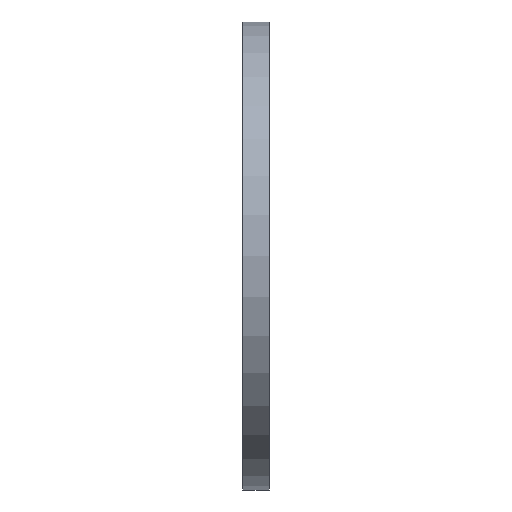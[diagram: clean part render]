
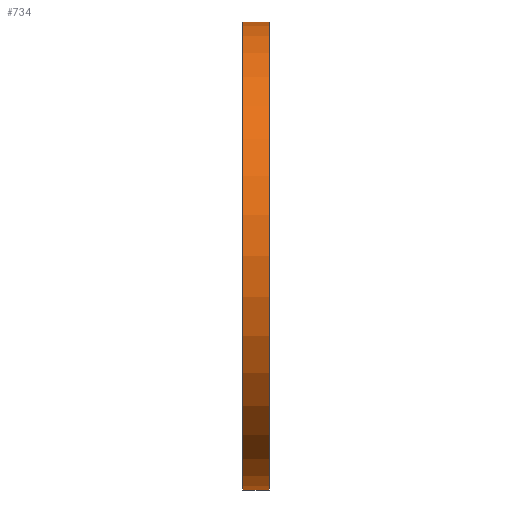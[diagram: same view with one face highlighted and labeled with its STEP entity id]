
A CAD part, left-side view. The second image highlights one B-rep face of the part: STEP entity #734.
In plain terms, the highlighted cylindrical face has radius 142.5 mm (diameter 285 mm), a partial arc.
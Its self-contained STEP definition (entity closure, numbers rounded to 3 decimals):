
#3 = LINE ( 'NONE', #870, #1173 ) ;
#72 = VERTEX_POINT ( 'NONE', #470 ) ;
#88 = DIRECTION ( 'NONE',  ( 0., -1., 0. ) ) ;
#111 = CIRCLE ( 'NONE', #1003, 142.5 ) ;
#135 = ORIENTED_EDGE ( 'NONE', *, *, #1010, .F. ) ;
#238 = AXIS2_PLACEMENT_3D ( 'NONE', #414, #806, #526 ) ;
#239 = CARTESIAN_POINT ( 'NONE',  ( 0., 0., 142.5 ) ) ;
#257 = DIRECTION ( 'NONE',  ( 0., 0., -1. ) ) ;
#350 = AXIS2_PLACEMENT_3D ( 'NONE', #739, #88, #257 ) ;
#387 = EDGE_LOOP ( 'NONE', ( #593, #407, #814, #135 ) ) ;
#407 = ORIENTED_EDGE ( 'NONE', *, *, #823, .T. ) ;
#411 = EDGE_CURVE ( 'NONE', #72, #712, #707, .T. ) ;
#414 = CARTESIAN_POINT ( 'NONE',  ( 0., 0., 0. ) ) ;
#416 = CARTESIAN_POINT ( 'NONE',  ( 0., 0., -142.5 ) ) ;
#443 = CARTESIAN_POINT ( 'NONE',  ( 0., 0., 0. ) ) ;
#448 = DIRECTION ( 'NONE',  ( 0., -1., 0. ) ) ;
#470 = CARTESIAN_POINT ( 'NONE',  ( 0., 16., 142.5 ) ) ;
#496 = CIRCLE ( 'NONE', #350, 142.5 ) ;
#526 = DIRECTION ( 'NONE',  ( 0., 0., -1. ) ) ;
#527 = VERTEX_POINT ( 'NONE', #1035 ) ;
#549 = CARTESIAN_POINT ( 'NONE',  ( 0., 0., 142.5 ) ) ;
#593 = ORIENTED_EDGE ( 'NONE', *, *, #411, .F. ) ;
#596 = CYLINDRICAL_SURFACE ( 'NONE', #238, 142.5 ) ;
#653 = FACE_OUTER_BOUND ( 'NONE', #387, .T. ) ;
#686 = EDGE_CURVE ( 'NONE', #527, #693, #3, .T. ) ;
#693 = VERTEX_POINT ( 'NONE', #416 ) ;
#707 = LINE ( 'NONE', #549, #1133 ) ;
#709 = DIRECTION ( 'NONE',  ( 0., -1., 0. ) ) ;
#712 = VERTEX_POINT ( 'NONE', #239 ) ;
#734 = ADVANCED_FACE ( 'NONE', ( #653 ), #596, .T. ) ;
#739 = CARTESIAN_POINT ( 'NONE',  ( 0., 16., 0. ) ) ;
#760 = DIRECTION ( 'NONE',  ( 0., 0., -1. ) ) ;
#806 = DIRECTION ( 'NONE',  ( 0., -1., 0. ) ) ;
#814 = ORIENTED_EDGE ( 'NONE', *, *, #686, .T. ) ;
#823 = EDGE_CURVE ( 'NONE', #72, #527, #496, .T. ) ;
#870 = CARTESIAN_POINT ( 'NONE',  ( 0., 0., -142.5 ) ) ;
#926 = DIRECTION ( 'NONE',  ( 0., -1., 0. ) ) ;
#1003 = AXIS2_PLACEMENT_3D ( 'NONE', #443, #448, #760 ) ;
#1010 = EDGE_CURVE ( 'NONE', #712, #693, #111, .T. ) ;
#1035 = CARTESIAN_POINT ( 'NONE',  ( 0., 16., -142.5 ) ) ;
#1133 = VECTOR ( 'NONE', #926, 1000. ) ;
#1173 = VECTOR ( 'NONE', #709, 1000. ) ;
